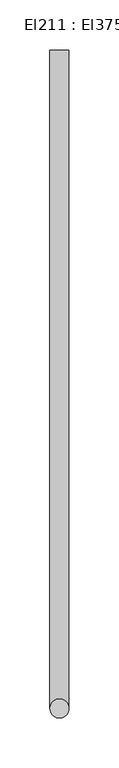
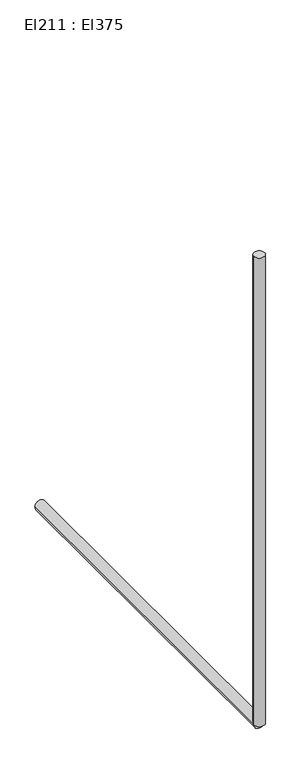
"""IFC4 building model written with IfcOpenShell, lengths in millimetres: cable carrier segment geometry, El211 : El375."""

from ifc_helpers import new_model, si_unit, point, frame, frame_2d, origin, place, context, project, spatial, circle_curve, trimmed, segment, composite_curve, outline, extrude, source, transform, mapped, element, save


def el211_el375_b2e2aab6(model_context):
    return source(origin(), model_context, "Body", "SweptSolid", [
        extrude(outline(composite_curve([segment(trimmed(circle_curve(frame_2d((5414.4746511, 7040.8431745)), 9.5), [point((5404.9746511, 7040.8431745))], [point((5423.9746511, 7040.8431745))], False, "CARTESIAN"), True, "CONTINUOUS"), segment(trimmed(circle_curve(frame_2d((5414.4746511, 7040.8431745)), 9.5), [point((5423.9746511, 7040.8431745))], [point((5404.9746511, 7040.8431745))], False, "CARTESIAN"), True, "CONTINUOUS")], self_intersect=False)), frame((0.0, 0.0, 1800.0), z_axis=(0.0, 0.0, 1.0), x_axis=(1.0, 0.0, 0.0)), (0.0, 0.0, 1.0), 860.0),
        extrude(outline(composite_curve([segment(trimmed(circle_curve(frame_2d((1800.0, 5414.4746511)), 9.5), [point((1800.0, 5404.9746511))], [point((1800.0, 5423.9746511))], False, "CARTESIAN"), True, "CONTINUOUS"), segment(trimmed(circle_curve(frame_2d((1800.0, 5414.4746511)), 9.5), [point((1800.0, 5423.9746511))], [point((1800.0, 5404.9746511))], False, "CARTESIAN"), True, "CONTINUOUS")], self_intersect=False)), frame((0.0, 7040.8421745, 0.0), z_axis=(0.0, 1.0, 0.0), x_axis=(0.0, 0.0, 1.0)), (0.0, 0.0, 1.0), 659.439),
    ])


if __name__ == "__main__":
    model = new_model("IFC4")
    model_context = context("Model", 3, world=origin())
    ifc_project = project(units=[si_unit("LENGTHUNIT", "METRE", prefix="MILLI")], contexts=[model_context])
    site = spatial("IfcSite", under=ifc_project)
    building = spatial("IfcBuilding", under=site)
    placement = place(None, origin())
    el211_el375_shape = el211_el375_b2e2aab6(model_context)
    element("IfcCableCarrierSegment", 1, ObjectType="El211 : El375", at=placement, inside=building, context=model_context, shape_type="MappedRepresentation", body=[
        mapped(el211_el375_shape, transform((0.0, 0.0, 0.0), x_axis=(1.0, 0.0, 0.0), y_axis=(0.0, 1.0, 0.0), z_axis=(0.0, 0.0, 1.0))),
    ])
    save(model, "model.ifc")
